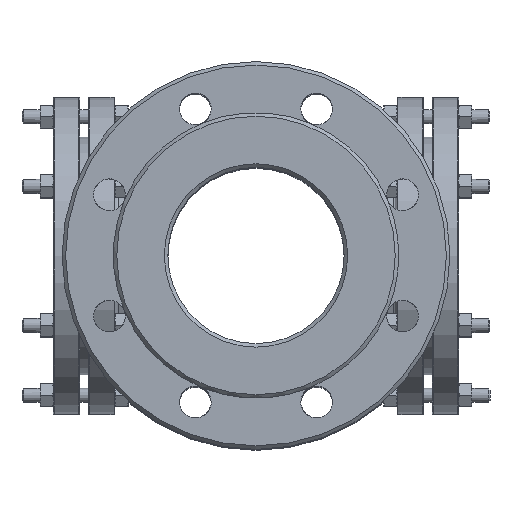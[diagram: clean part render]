
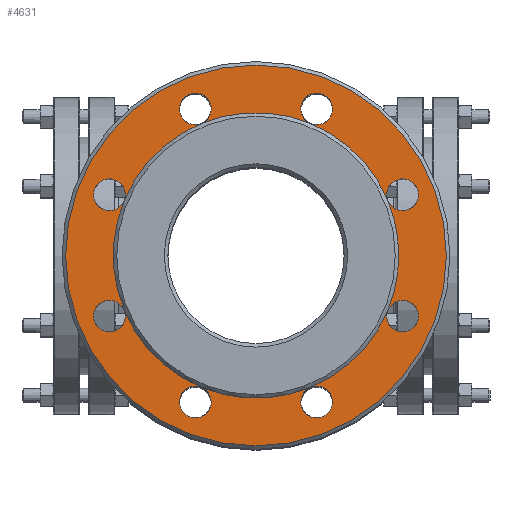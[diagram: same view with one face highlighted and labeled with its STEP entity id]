
A CAD part, top view. The second image highlights one B-rep face of the part: STEP entity #4631.
In plain terms, the highlighted planar face has unit normal (0, 0, 1).
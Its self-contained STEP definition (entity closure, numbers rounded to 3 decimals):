
#320=FACE_BOUND('',#1012,.T.);
#413=PLANE('',#5227);
#678=FACE_OUTER_BOUND('',#1011,.T.);
#1011=EDGE_LOOP('',(#3949));
#1012=EDGE_LOOP('',(#3950,#3951,#3952,#3953,#3954,#3955,#3956,#3957,#3958,
#3959,#3960,#3961,#3962,#3963,#3964,#3965,#3966,#3967,#3968,#3969,#3970,
#3971,#3972,#3973,#3974));
#1110=CIRCLE('',#4840,9.);
#1112=CIRCLE('',#4842,9.);
#1113=CIRCLE('',#4844,9.);
#1115=CIRCLE('',#4846,9.);
#1116=CIRCLE('',#4848,9.);
#1118=CIRCLE('',#4850,9.);
#1119=CIRCLE('',#4852,9.);
#1121=CIRCLE('',#4854,9.);
#1231=CIRCLE('',#5028,9.);
#1232=CIRCLE('',#5029,9.);
#1234=CIRCLE('',#5032,9.);
#1235=CIRCLE('',#5033,9.);
#1237=CIRCLE('',#5036,9.);
#1238=CIRCLE('',#5037,9.);
#1240=CIRCLE('',#5040,9.);
#1241=CIRCLE('',#5041,9.);
#1329=CIRCLE('',#5190,81.);
#1330=CIRCLE('',#5191,81.);
#1331=CIRCLE('',#5192,81.);
#1333=CIRCLE('',#5194,81.);
#1334=CIRCLE('',#5195,81.);
#1335=CIRCLE('',#5196,81.);
#1336=CIRCLE('',#5197,81.);
#1337=CIRCLE('',#5198,81.);
#1338=CIRCLE('',#5199,81.);
#1356=CIRCLE('',#5228,108.);
#1994=VERTEX_POINT('',#7904);
#1995=VERTEX_POINT('',#7905);
#1997=VERTEX_POINT('',#7912);
#1998=VERTEX_POINT('',#7913);
#2000=VERTEX_POINT('',#7920);
#2001=VERTEX_POINT('',#7921);
#2003=VERTEX_POINT('',#7928);
#2004=VERTEX_POINT('',#7929);
#2116=VERTEX_POINT('',#8858);
#2117=VERTEX_POINT('',#8859);
#2119=VERTEX_POINT('',#8866);
#2120=VERTEX_POINT('',#8867);
#2122=VERTEX_POINT('',#8874);
#2123=VERTEX_POINT('',#8875);
#2125=VERTEX_POINT('',#8882);
#2126=VERTEX_POINT('',#8883);
#2207=VERTEX_POINT('',#9314);
#2220=VERTEX_POINT('',#9778);
#2465=EDGE_CURVE('',#1994,#1995,#1110,.T.);
#2468=EDGE_CURVE('',#1995,#1994,#1112,.T.);
#2469=EDGE_CURVE('',#1997,#1998,#1113,.T.);
#2472=EDGE_CURVE('',#1998,#1997,#1115,.T.);
#2473=EDGE_CURVE('',#2000,#2001,#1116,.T.);
#2476=EDGE_CURVE('',#2001,#2000,#1118,.T.);
#2477=EDGE_CURVE('',#2003,#2004,#1119,.T.);
#2480=EDGE_CURVE('',#2004,#2003,#1121,.T.);
#2640=EDGE_CURVE('',#2116,#2117,#1231,.T.);
#2641=EDGE_CURVE('',#2117,#2116,#1232,.T.);
#2644=EDGE_CURVE('',#2119,#2120,#1234,.T.);
#2645=EDGE_CURVE('',#2120,#2119,#1235,.T.);
#2648=EDGE_CURVE('',#2122,#2123,#1237,.T.);
#2649=EDGE_CURVE('',#2123,#2122,#1238,.T.);
#2652=EDGE_CURVE('',#2125,#2126,#1240,.T.);
#2653=EDGE_CURVE('',#2126,#2125,#1241,.T.);
#2780=EDGE_CURVE('',#2000,#2122,#1329,.T.);
#2781=EDGE_CURVE('',#2122,#2125,#1330,.T.);
#2782=EDGE_CURVE('',#2125,#2207,#1331,.T.);
#2785=EDGE_CURVE('',#2207,#2116,#1333,.T.);
#2786=EDGE_CURVE('',#2116,#2119,#1334,.T.);
#2787=EDGE_CURVE('',#2119,#1997,#1335,.T.);
#2788=EDGE_CURVE('',#1994,#1997,#1336,.T.);
#2789=EDGE_CURVE('',#2003,#1994,#1337,.T.);
#2790=EDGE_CURVE('',#2000,#2003,#1338,.T.);
#2821=EDGE_CURVE('',#2220,#2220,#1356,.T.);
#3949=ORIENTED_EDGE('',*,*,#2821,.F.);
#3950=ORIENTED_EDGE('',*,*,#2780,.F.);
#3951=ORIENTED_EDGE('',*,*,#2476,.F.);
#3952=ORIENTED_EDGE('',*,*,#2473,.F.);
#3953=ORIENTED_EDGE('',*,*,#2790,.T.);
#3954=ORIENTED_EDGE('',*,*,#2480,.F.);
#3955=ORIENTED_EDGE('',*,*,#2477,.F.);
#3956=ORIENTED_EDGE('',*,*,#2789,.T.);
#3957=ORIENTED_EDGE('',*,*,#2468,.F.);
#3958=ORIENTED_EDGE('',*,*,#2465,.F.);
#3959=ORIENTED_EDGE('',*,*,#2788,.T.);
#3960=ORIENTED_EDGE('',*,*,#2472,.F.);
#3961=ORIENTED_EDGE('',*,*,#2469,.F.);
#3962=ORIENTED_EDGE('',*,*,#2787,.F.);
#3963=ORIENTED_EDGE('',*,*,#2644,.T.);
#3964=ORIENTED_EDGE('',*,*,#2645,.T.);
#3965=ORIENTED_EDGE('',*,*,#2786,.F.);
#3966=ORIENTED_EDGE('',*,*,#2640,.T.);
#3967=ORIENTED_EDGE('',*,*,#2641,.T.);
#3968=ORIENTED_EDGE('',*,*,#2785,.F.);
#3969=ORIENTED_EDGE('',*,*,#2782,.F.);
#3970=ORIENTED_EDGE('',*,*,#2652,.T.);
#3971=ORIENTED_EDGE('',*,*,#2653,.T.);
#3972=ORIENTED_EDGE('',*,*,#2781,.F.);
#3973=ORIENTED_EDGE('',*,*,#2648,.T.);
#3974=ORIENTED_EDGE('',*,*,#2649,.T.);
#4631=ADVANCED_FACE('',(#678,#320),#413,.T.);
#4840=AXIS2_PLACEMENT_3D('',#7906,#5636,#5637);
#4842=AXIS2_PLACEMENT_3D('',#7910,#5641,#5642);
#4844=AXIS2_PLACEMENT_3D('',#7914,#5645,#5646);
#4846=AXIS2_PLACEMENT_3D('',#7918,#5650,#5651);
#4848=AXIS2_PLACEMENT_3D('',#7922,#5654,#5655);
#4850=AXIS2_PLACEMENT_3D('',#7926,#5659,#5660);
#4852=AXIS2_PLACEMENT_3D('',#7930,#5663,#5664);
#4854=AXIS2_PLACEMENT_3D('',#7934,#5668,#5669);
#5028=AXIS2_PLACEMENT_3D('',#8860,#6054,#6055);
#5029=AXIS2_PLACEMENT_3D('',#8861,#6056,#6057);
#5032=AXIS2_PLACEMENT_3D('',#8868,#6063,#6064);
#5033=AXIS2_PLACEMENT_3D('',#8869,#6065,#6066);
#5036=AXIS2_PLACEMENT_3D('',#8876,#6072,#6073);
#5037=AXIS2_PLACEMENT_3D('',#8877,#6074,#6075);
#5040=AXIS2_PLACEMENT_3D('',#8884,#6081,#6082);
#5041=AXIS2_PLACEMENT_3D('',#8885,#6083,#6084);
#5190=AXIS2_PLACEMENT_3D('',#9312,#6418,#6419);
#5191=AXIS2_PLACEMENT_3D('',#9313,#6420,#6421);
#5192=AXIS2_PLACEMENT_3D('',#9315,#6422,#6423);
#5194=AXIS2_PLACEMENT_3D('',#9319,#6427,#6428);
#5195=AXIS2_PLACEMENT_3D('',#9320,#6429,#6430);
#5196=AXIS2_PLACEMENT_3D('',#9321,#6431,#6432);
#5197=AXIS2_PLACEMENT_3D('',#9322,#6433,#6434);
#5198=AXIS2_PLACEMENT_3D('',#9323,#6435,#6436);
#5199=AXIS2_PLACEMENT_3D('',#9324,#6437,#6438);
#5227=AXIS2_PLACEMENT_3D('',#9777,#6500,#6501);
#5228=AXIS2_PLACEMENT_3D('',#9779,#6502,#6503);
#5636=DIRECTION('center_axis',(0.,0.,1.));
#5637=DIRECTION('ref_axis',(1.,0.,0.));
#5641=DIRECTION('center_axis',(0.,0.,1.));
#5642=DIRECTION('ref_axis',(1.,0.,0.));
#5645=DIRECTION('center_axis',(0.,0.,1.));
#5646=DIRECTION('ref_axis',(1.,0.,0.));
#5650=DIRECTION('center_axis',(0.,0.,1.));
#5651=DIRECTION('ref_axis',(1.,0.,0.));
#5654=DIRECTION('center_axis',(0.,0.,1.));
#5655=DIRECTION('ref_axis',(1.,0.,0.));
#5659=DIRECTION('center_axis',(0.,0.,1.));
#5660=DIRECTION('ref_axis',(1.,0.,0.));
#5663=DIRECTION('center_axis',(0.,0.,1.));
#5664=DIRECTION('ref_axis',(1.,0.,0.));
#5668=DIRECTION('center_axis',(0.,0.,1.));
#5669=DIRECTION('ref_axis',(1.,0.,0.));
#6054=DIRECTION('center_axis',(0.,0.,-1.));
#6055=DIRECTION('ref_axis',(-1.,0.,0.));
#6056=DIRECTION('center_axis',(0.,0.,-1.));
#6057=DIRECTION('ref_axis',(-1.,0.,0.));
#6063=DIRECTION('center_axis',(0.,0.,-1.));
#6064=DIRECTION('ref_axis',(-1.,0.,0.));
#6065=DIRECTION('center_axis',(0.,0.,-1.));
#6066=DIRECTION('ref_axis',(-1.,0.,0.));
#6072=DIRECTION('center_axis',(0.,0.,-1.));
#6073=DIRECTION('ref_axis',(-1.,0.,0.));
#6074=DIRECTION('center_axis',(0.,0.,-1.));
#6075=DIRECTION('ref_axis',(-1.,0.,0.));
#6081=DIRECTION('center_axis',(0.,0.,-1.));
#6082=DIRECTION('ref_axis',(-1.,0.,0.));
#6083=DIRECTION('center_axis',(0.,0.,-1.));
#6084=DIRECTION('ref_axis',(-1.,0.,0.));
#6418=DIRECTION('center_axis',(0.,0.,1.));
#6419=DIRECTION('ref_axis',(-1.,0.,0.));
#6420=DIRECTION('center_axis',(0.,0.,1.));
#6421=DIRECTION('ref_axis',(-1.,0.,0.));
#6422=DIRECTION('center_axis',(0.,0.,1.));
#6423=DIRECTION('ref_axis',(-1.,0.,0.));
#6427=DIRECTION('center_axis',(0.,0.,1.));
#6428=DIRECTION('ref_axis',(-1.,0.,0.));
#6429=DIRECTION('center_axis',(0.,0.,1.));
#6430=DIRECTION('ref_axis',(-1.,0.,0.));
#6431=DIRECTION('center_axis',(0.,0.,1.));
#6432=DIRECTION('ref_axis',(-1.,0.,0.));
#6433=DIRECTION('center_axis',(0.,0.,-1.));
#6434=DIRECTION('ref_axis',(1.,0.,0.));
#6435=DIRECTION('center_axis',(0.,0.,-1.));
#6436=DIRECTION('ref_axis',(1.,0.,0.));
#6437=DIRECTION('center_axis',(0.,0.,-1.));
#6438=DIRECTION('ref_axis',(1.,0.,0.));
#6500=DIRECTION('center_axis',(0.,0.,1.));
#6501=DIRECTION('ref_axis',(1.,0.,0.));
#6502=DIRECTION('center_axis',(0.,0.,-1.));
#6503=DIRECTION('ref_axis',(-1.,0.,0.));
#7904=CARTESIAN_POINT('',(-74.834,30.997,348.));
#7905=CARTESIAN_POINT('',(-92.149,34.442,348.));
#7906=CARTESIAN_POINT('Origin',(-83.149,34.442,348.));
#7910=CARTESIAN_POINT('Origin',(-83.149,34.442,348.));
#7912=CARTESIAN_POINT('',(-30.997,74.834,348.));
#7913=CARTESIAN_POINT('',(-43.442,83.149,348.));
#7914=CARTESIAN_POINT('Origin',(-34.442,83.149,348.));
#7918=CARTESIAN_POINT('Origin',(-34.442,83.149,348.));
#7920=CARTESIAN_POINT('',(-30.997,-74.834,348.));
#7921=CARTESIAN_POINT('',(-43.442,-83.149,348.));
#7922=CARTESIAN_POINT('Origin',(-34.442,-83.149,348.));
#7926=CARTESIAN_POINT('Origin',(-34.442,-83.149,348.));
#7928=CARTESIAN_POINT('',(-74.834,-30.997,348.));
#7929=CARTESIAN_POINT('',(-92.149,-34.442,348.));
#7930=CARTESIAN_POINT('Origin',(-83.149,-34.442,348.));
#7934=CARTESIAN_POINT('Origin',(-83.149,-34.442,348.));
#8858=CARTESIAN_POINT('',(74.834,30.997,348.));
#8859=CARTESIAN_POINT('',(92.149,34.442,348.));
#8860=CARTESIAN_POINT('Origin',(83.149,34.442,348.));
#8861=CARTESIAN_POINT('Origin',(83.149,34.442,348.));
#8866=CARTESIAN_POINT('',(30.997,74.834,348.));
#8867=CARTESIAN_POINT('',(43.442,83.149,348.));
#8868=CARTESIAN_POINT('Origin',(34.442,83.149,348.));
#8869=CARTESIAN_POINT('Origin',(34.442,83.149,348.));
#8874=CARTESIAN_POINT('',(30.997,-74.834,348.));
#8875=CARTESIAN_POINT('',(43.442,-83.149,348.));
#8876=CARTESIAN_POINT('Origin',(34.442,-83.149,348.));
#8877=CARTESIAN_POINT('Origin',(34.442,-83.149,348.));
#8882=CARTESIAN_POINT('',(74.834,-30.997,348.));
#8883=CARTESIAN_POINT('',(92.149,-34.442,348.));
#8884=CARTESIAN_POINT('Origin',(83.149,-34.442,348.));
#8885=CARTESIAN_POINT('Origin',(83.149,-34.442,348.));
#9312=CARTESIAN_POINT('Origin',(0.,0.,348.));
#9313=CARTESIAN_POINT('Origin',(0.,0.,348.));
#9314=CARTESIAN_POINT('',(81.,0.,348.));
#9315=CARTESIAN_POINT('Origin',(0.,0.,348.));
#9319=CARTESIAN_POINT('Origin',(0.,0.,348.));
#9320=CARTESIAN_POINT('Origin',(0.,0.,348.));
#9321=CARTESIAN_POINT('Origin',(0.,0.,348.));
#9322=CARTESIAN_POINT('Origin',(0.,0.,348.));
#9323=CARTESIAN_POINT('Origin',(0.,0.,348.));
#9324=CARTESIAN_POINT('Origin',(0.,0.,348.));
#9777=CARTESIAN_POINT('Origin',(0.,0.,348.));
#9778=CARTESIAN_POINT('',(108.,0.,348.));
#9779=CARTESIAN_POINT('Origin',(0.,0.,348.));
